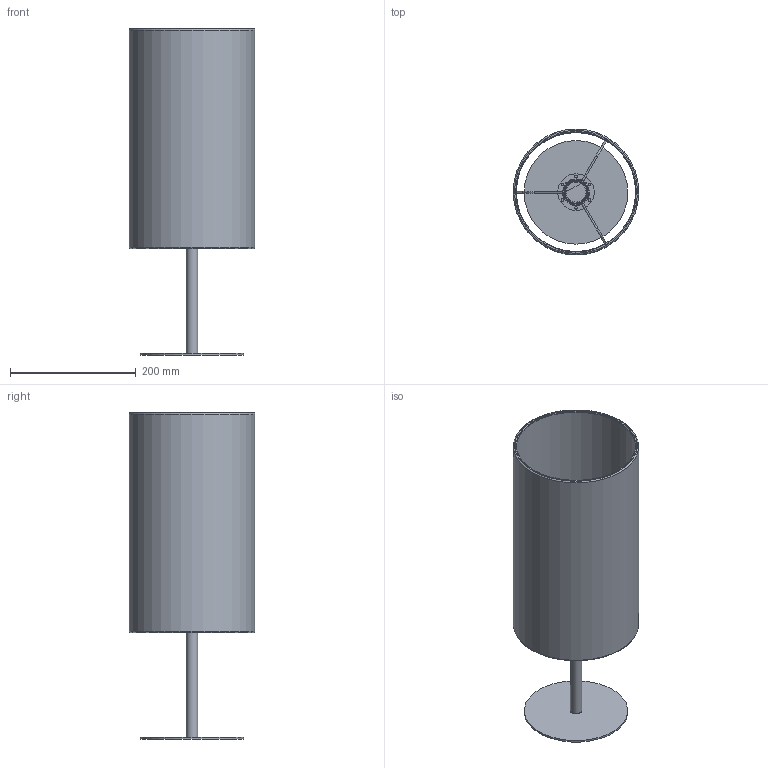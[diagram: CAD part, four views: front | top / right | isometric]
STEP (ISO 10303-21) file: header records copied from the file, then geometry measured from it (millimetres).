
FILE_DESCRIPTION(/* description */ (''),/* implementation_level */ '2;1');
FILE_NAME(/* name */ 'C:/Users/Jakub Wieczorkowski/Desktop/STEP/TERCINO_5534 v3 v2 v1.step',/* time_stamp */ '2022-02-22T08:25:58+01:00',/* author */ (''),/* organization */ (''),/* preprocessor_version */ 'ST-DEVELOPER v18.1',/* originating_system */ 'Autodesk Translation Framework v10.13.0.1454',/* authorisation */ '');
FILE_SCHEMA (('AUTOMOTIVE_DESIGN { 1 0 10303 214 3 1 1 }'));
Length unit declared in the file: millimetre
Products named in the file (2): TERCINO_5534 v3 v2; TERCINO_OPRAWA v3
Assembly tree (1 placements, depth 2):
  TERCINO_5534 v3 v2
    TERCINO_OPRAWA v3
Bounding box: 200 x 200 x 520 mm (x, y, z)
Volume: 626750.9 mm3; surface area: 534402 mm2
Topology: 16 solids, 16 shells, 448 faces, 1076 edges, 659 vertices
Faces by surface type: bspline 199, plane 138, cylinder 88, sphere 13, torus 10
Full cylindrical faces by diameter (mm): 3 x6, 4 x6, 18 x1, 34.939 x1, 36 x1, 42 x1, 58 x1, 165 x1, 190 x2, 196 x1, 200 x1
Entity records: 26625 total; most frequent: CARTESIAN_POINT 18042, ORIENTED_EDGE 2146, EDGE_CURVE 1073, DIRECTION 1048, B_SPLINE_CURVE_WITH_KNOTS 665, VERTEX_POINT 659, EDGE_LOOP 462, FACE_OUTER_BOUND 448
